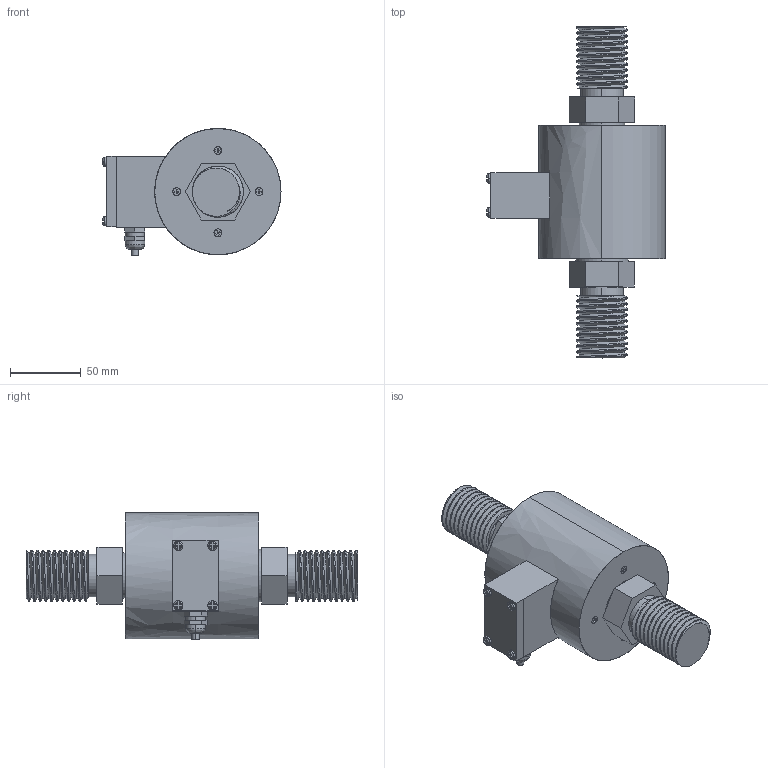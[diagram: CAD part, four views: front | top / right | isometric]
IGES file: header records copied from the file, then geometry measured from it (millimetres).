
Start section: SolidWorks IGES file using analytic representation for surfaces
Global section: file name: O:\16-Entwicklung\Projekte\03_Kraftsensoren\0222_KT1101\01_Mechanik & Gehäuse\01_Solid Works\01_Outline 3D files\KT1101_K_50KN.IGS; native system: SolidWorks 2012; preprocessor: SolidWorks 2012; author: AndreB; date: 140424.120553; units: metre
Bounding box: 125.5 x 234 x 89.5 mm (x, y, z)
Surface area: 72209.3 mm2 (no closed solid volume)
Topology: 0 solids, 0 shells, 257 faces, 5073 edges, 5073 vertices
Faces by surface type: bspline 182, revolution 75
